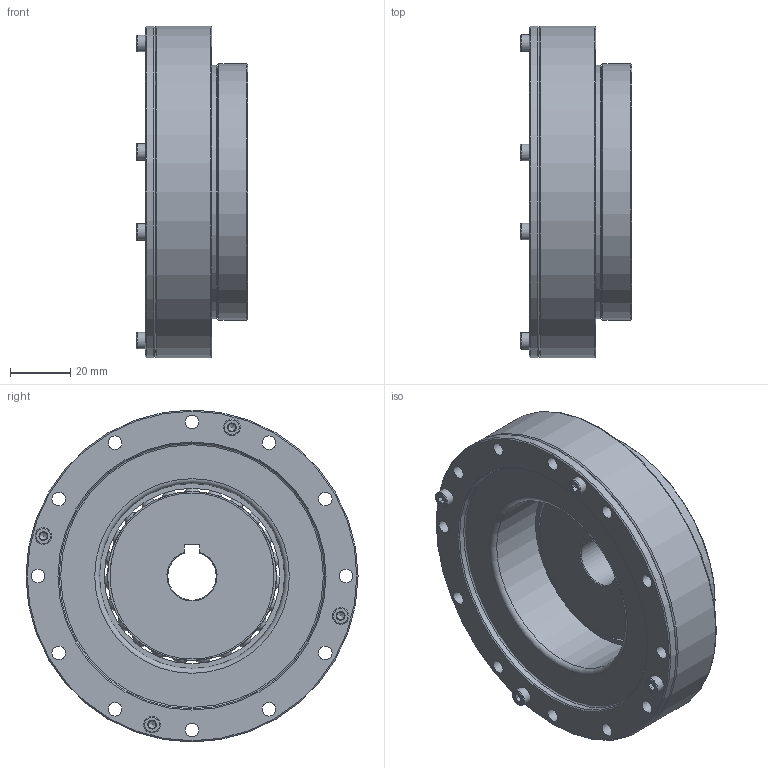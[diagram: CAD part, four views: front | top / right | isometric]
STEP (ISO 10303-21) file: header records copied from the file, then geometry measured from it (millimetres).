
FILE_DESCRIPTION(/* description */ (''),/* implementation_level */ '2;1');
FILE_NAME(/* name */ 'Getriebeset_HTG_Plus_BG63_FK.stp',/* time_stamp */ '2026-03-10T08:46:01+01:00',/* author */ (''),/* organization */ (''),/* preprocessor_version */ 'ST-DEVELOPER v19.4',/* originating_system */ 'SIEMENS PLM Software NX2212.9120',/* authorisation */ '');
FILE_SCHEMA (('AUTOMOTIVE_DESIGN { 1 0 10303 214 3 1 1 1 }'));
Length unit declared in the file: millimetre
Products named in the file (1): Getriebeset_HTG_Plus_BG63_FK
Bounding box: 37 x 110 x 110 mm (x, y, z)
Volume: 172616.1 mm3; surface area: 114998.8 mm2
Topology: 44 solids, 44 shells, 625 faces, 1614 edges, 1053 vertices
Faces by surface type: plane 195, cylinder 177, cone 147, torus 67, sphere 35, bspline 4
Full cylindrical faces by diameter (mm): 1.7 x1, 2.5 x4, 2.6 x8, 3 x8, 3.4 x20, 3.5 x4, 4.5 x40, 5.5 x8, 6.5 x4, 22.5 x1, 38 x1, 40.52 x1, 42 x1, 45 x2, 48.5 x2, 48.8 x1, 58.1 x2, 61.3 x2, 62.3 x1, 63 x1, 64 x1, 64.9 x1, 67 x2, 67.1 x1, 71.2 x1, 76 x1, 84 x2, 85 x1, 86 x2, 88 x1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
Entity records: 20236 total; most frequent: CARTESIAN_POINT 6723, DIRECTION 2689, ORIENTED_EDGE 2264, AXIS2_PLACEMENT_3D 1229, EDGE_CURVE 1132, EDGE_LOOP 989, VERTEX_POINT 901, FACE_BOUND 749
